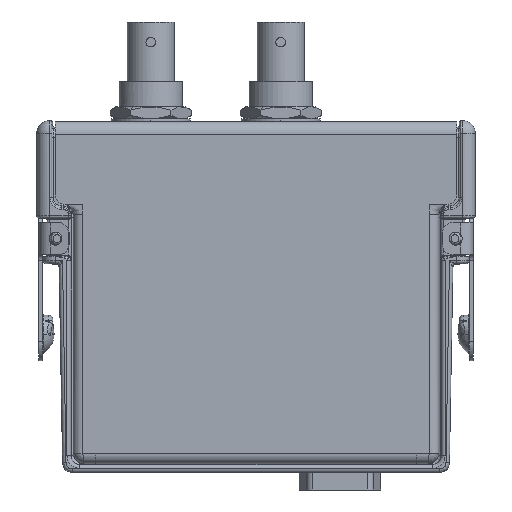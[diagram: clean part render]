
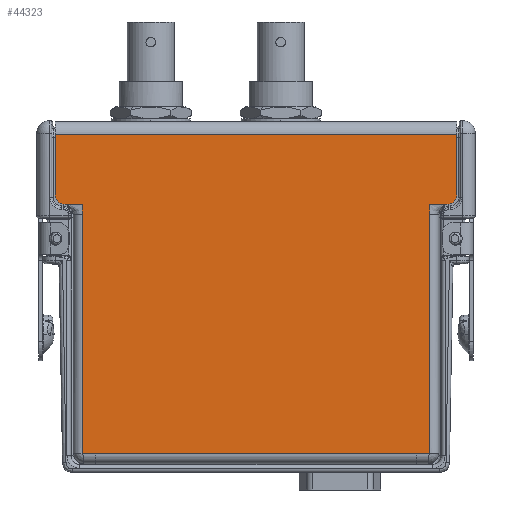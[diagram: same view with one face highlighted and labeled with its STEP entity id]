
A CAD part, left-side view. The second image highlights one B-rep face of the part: STEP entity #44323.
In plain terms, the highlighted planar face has unit normal (-1, 0, 0).
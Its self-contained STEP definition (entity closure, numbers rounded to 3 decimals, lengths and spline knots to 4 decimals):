
#13840=DIRECTION('',(0.,-1.,0.));
#13841=VECTOR('',#13840,3.179);
#13842=CARTESIAN_POINT('',(-0.4475,1.5895,2.676));
#13843=LINE('',#13842,#13841);
#13920=CARTESIAN_POINT('',(-0.4475,1.5095,2.2));
#13921=DIRECTION('',(-1.,0.,0.));
#13922=DIRECTION('',(0.,1.,0.));
#13923=AXIS2_PLACEMENT_3D('',#13920,#13921,#13922);
#13925=DIRECTION('',(0.,-1.,0.));
#13926=VECTOR('',#13925,0.133);
#13927=CARTESIAN_POINT('',(-0.4475,1.5095,2.12));
#13928=LINE('',#13927,#13926);
#13937=DIRECTION('',(0.,0.,-1.));
#13938=VECTOR('',#13937,0.476);
#13939=CARTESIAN_POINT('',(-0.4475,1.5895,2.676));
#13940=LINE('',#13939,#13938);
#13941=DIRECTION('',(0.,0.,1.));
#13942=VECTOR('',#13941,0.476);
#13943=CARTESIAN_POINT('',(-0.4475,-1.5895,2.2));
#13944=LINE('',#13943,#13942);
#13945=DIRECTION('',(0.,0.,1.));
#13946=VECTOR('',#13945,0.079);
#13947=CARTESIAN_POINT('',(-0.4475,-1.3765,2.041));
#13948=LINE('',#13947,#13946);
#13949=DIRECTION('',(0.,-1.,0.));
#13950=VECTOR('',#13949,0.105);
#13951=CARTESIAN_POINT('',(-0.4475,-1.2715,0.146));
#13952=LINE('',#13951,#13950);
#13953=DIRECTION('',(0.,-1.,0.));
#13954=VECTOR('',#13953,0.105);
#13955=CARTESIAN_POINT('',(-0.4475,1.3765,0.146));
#13956=LINE('',#13955,#13954);
#13957=DIRECTION('',(0.,0.,1.));
#13958=VECTOR('',#13957,0.079);
#13959=CARTESIAN_POINT('',(-0.4475,1.3765,2.041));
#13960=LINE('',#13959,#13958);
#13978=CARTESIAN_POINT('',(-0.4475,-1.5095,2.2));
#13979=DIRECTION('',(-1.,0.,0.));
#13980=DIRECTION('',(0.,0.,-1.));
#13981=AXIS2_PLACEMENT_3D('',#13978,#13979,#13980);
#13991=DIRECTION('',(0.,-1.,0.));
#13992=VECTOR('',#13991,0.133);
#13993=CARTESIAN_POINT('',(-0.4475,-1.3765,2.12));
#13994=LINE('',#13993,#13992);
#14026=DIRECTION('',(0.,0.,1.));
#14027=VECTOR('',#14026,1.895);
#14028=CARTESIAN_POINT('',(-0.4475,-1.3765,0.146));
#14029=LINE('',#14028,#14027);
#14217=DIRECTION('',(0.,-1.,0.));
#14218=VECTOR('',#14217,2.543);
#14219=CARTESIAN_POINT('',(-0.4475,1.2715,0.146));
#14220=LINE('',#14219,#14218);
#15253=DIRECTION('',(0.,0.,1.));
#15254=VECTOR('',#15253,1.895);
#15255=CARTESIAN_POINT('',(-0.4475,1.3765,0.146));
#15256=LINE('',#15255,#15254);
#25205=CARTESIAN_POINT('',(-0.4475,-1.5895,2.676));
#25206=VERTEX_POINT('',#25205);
#25207=CARTESIAN_POINT('',(-0.4475,1.5895,2.676));
#25208=VERTEX_POINT('',#25207);
#25237=CARTESIAN_POINT('',(-0.4475,1.2715,0.146));
#25238=CARTESIAN_POINT('',(-0.4475,-1.2715,0.146));
#25239=VERTEX_POINT('',#25237);
#25240=VERTEX_POINT('',#25238);
#25249=CARTESIAN_POINT('',(-0.4475,-1.3765,0.146));
#25250=VERTEX_POINT('',#25249);
#25261=CARTESIAN_POINT('',(-0.4475,1.3765,0.146));
#25262=VERTEX_POINT('',#25261);
#25310=CARTESIAN_POINT('',(-0.4475,1.5095,2.12));
#25312=VERTEX_POINT('',#25310);
#25315=CARTESIAN_POINT('',(-0.4475,1.5895,2.2));
#25316=VERTEX_POINT('',#25315);
#25318=CARTESIAN_POINT('',(-0.4475,-1.5895,2.2));
#25320=VERTEX_POINT('',#25318);
#25323=CARTESIAN_POINT('',(-0.4475,-1.5095,2.12));
#25324=VERTEX_POINT('',#25323);
#25337=CARTESIAN_POINT('',(-0.4475,-1.3765,2.041));
#25338=VERTEX_POINT('',#25337);
#25341=CARTESIAN_POINT('',(-0.4475,-1.3765,2.12));
#25342=VERTEX_POINT('',#25341);
#25349=CARTESIAN_POINT('',(-0.4475,1.3765,2.041));
#25350=CARTESIAN_POINT('',(-0.4475,1.3765,2.12));
#25351=VERTEX_POINT('',#25349);
#25352=VERTEX_POINT('',#25350);
#44291=CARTESIAN_POINT('',(-0.4475,0.,1.421));
#44292=DIRECTION('',(-1.,0.,0.));
#44293=DIRECTION('',(0.,1.,0.));
#44294=AXIS2_PLACEMENT_3D('',#44291,#44292,#44293);
#44295=PLANE('',#44294);
#44296=ORIENTED_EDGE('',*,*,#44272,.F.);
#44298=ORIENTED_EDGE('',*,*,#44297,.F.);
#44299=ORIENTED_EDGE('',*,*,#44181,.T.);
#44301=ORIENTED_EDGE('',*,*,#44300,.F.);
#44303=ORIENTED_EDGE('',*,*,#44302,.F.);
#44305=ORIENTED_EDGE('',*,*,#44304,.F.);
#44307=ORIENTED_EDGE('',*,*,#44306,.F.);
#44309=ORIENTED_EDGE('',*,*,#44308,.F.);
#44311=ORIENTED_EDGE('',*,*,#44310,.F.);
#44313=ORIENTED_EDGE('',*,*,#44312,.F.);
#44315=ORIENTED_EDGE('',*,*,#44314,.F.);
#44317=ORIENTED_EDGE('',*,*,#44316,.T.);
#44319=ORIENTED_EDGE('',*,*,#44318,.T.);
#44320=ORIENTED_EDGE('',*,*,#44283,.F.);
#44321=EDGE_LOOP('',(#44296,#44298,#44299,#44301,#44303,#44305,#44307,#44309,
#44311,#44313,#44315,#44317,#44319,#44320));
#44322=FACE_OUTER_BOUND('',#44321,.F.);
#44323=ADVANCED_FACE('',(#44322),#44295,.T.);
#13924=CIRCLE('',#13923,0.08);
#13982=CIRCLE('',#13981,0.08);
#44181=EDGE_CURVE('',#25208,#25206,#13843,.T.);
#44272=EDGE_CURVE('',#25316,#25312,#13924,.T.);
#44283=EDGE_CURVE('',#25312,#25352,#13928,.T.);
#44297=EDGE_CURVE('',#25208,#25316,#13940,.T.);
#44300=EDGE_CURVE('',#25320,#25206,#13944,.T.);
#44302=EDGE_CURVE('',#25324,#25320,#13982,.T.);
#44304=EDGE_CURVE('',#25342,#25324,#13994,.T.);
#44306=EDGE_CURVE('',#25338,#25342,#13948,.T.);
#44308=EDGE_CURVE('',#25250,#25338,#14029,.T.);
#44310=EDGE_CURVE('',#25240,#25250,#13952,.T.);
#44312=EDGE_CURVE('',#25239,#25240,#14220,.T.);
#44314=EDGE_CURVE('',#25262,#25239,#13956,.T.);
#44316=EDGE_CURVE('',#25262,#25351,#15256,.T.);
#44318=EDGE_CURVE('',#25351,#25352,#13960,.T.);
